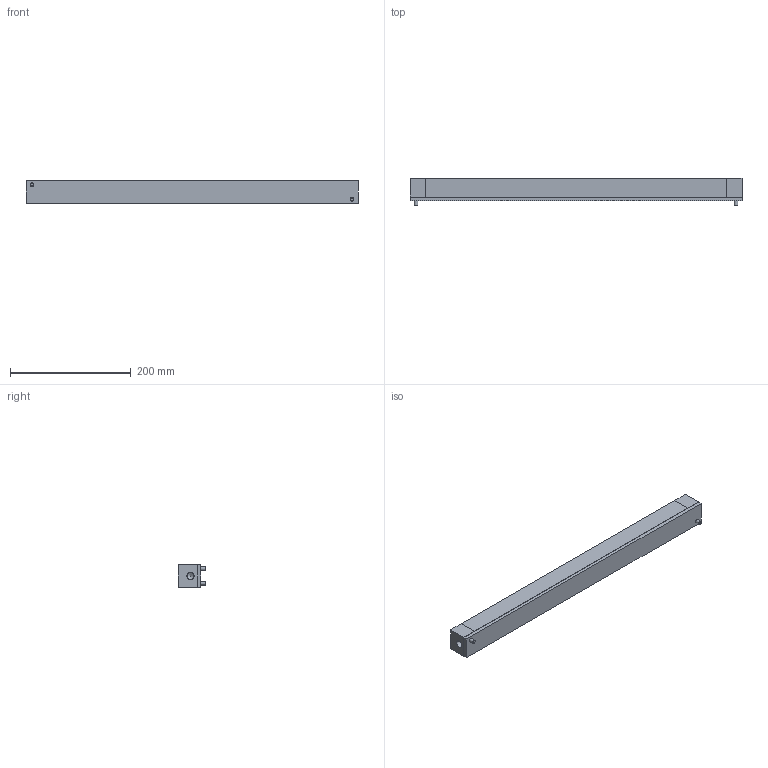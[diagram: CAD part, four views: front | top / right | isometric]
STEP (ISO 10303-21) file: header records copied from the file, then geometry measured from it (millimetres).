
FILE_DESCRIPTION( ( 'STEP AP214' ), '1' );
FILE_NAME( 'Z:/01-DesignData/標準品図面/★Web／カタログ用データ(型式別 3点Set)/067-ISR38 系/ISR38-550-A_0_.stp', '2022-05-10T00:07:24', ( 'License CC BY-ND 4.0' ), ( 'CADENAS' ), ' ', 'PARTsolutions', ' ' );
FILE_SCHEMA( ( 'AUTOMOTIVE_DESIGN { 1 0 10303 214 1 1 1 1 }' ) );
Length unit declared in the file: millimetre
Products named in the file (5): ISR38-550-A(0); _ISR38-550-A-Body; _ISR38-550-A-Box; _ISR38-550-A(0)-Ball; _ISR38-550-A-screw
Assembly tree (14 placements, depth 2):
  ISR38-550-A(0)
    _ISR38-550-A-Body
    _ISR38-550-A-Box
    _ISR38-550-A(0)-Ball  x10
    _ISR38-550-A-screw  x2
Bounding box: 550 x 45 x 38 mm (x, y, z)
Volume: 726599 mm3; surface area: 220204 mm2
Topology: 14 solids, 14 shells, 626 faces, 1314 edges, 814 vertices
Faces by surface type: plane 442, cylinder 102, cone 48, torus 24, sphere 10
Full cylindrical faces by diameter (mm): 6 x2, 6.5 x2, 7 x2, 8 x2, 8.5 x20, 9.5 x20, 10 x2, 11 x2, 25.7 x10, 31.5 x10, 32 x10, 35 x20
Entity records: 16908 total; most frequent: DIRECTION 2292, CARTESIAN_POINT 2111, ORIENTED_EDGE 1868, EDGE_CURVE 934, AXIS2_PLACEMENT_3D 836, EDGE_LOOP 706, VERTEX_POINT 655, LINE 620
